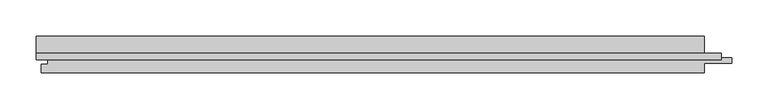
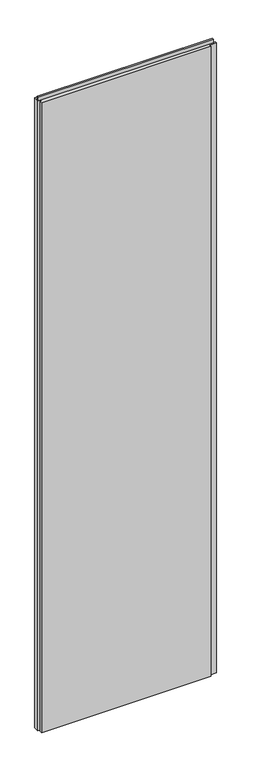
"""IFC4 building model written with IfcOpenShell, lengths in millimetres: plate geometry, Trimo_Qbiss Screen_Normal Panel-VERTICAL : HR - B."""

from ifc_helpers import new_model, si_unit, frame, origin, place, context, project, spatial, polyline, outline, extrude, source, transform, mapped, element, save


def plate_28d4e8d5(model_context):
    return source(origin(), model_context, "Body", "SweptSolid", [
        extrude(outline(polyline([(448.3, 97.0), (448.3, 102.6), (469.3, 102.6), (469.3, 97.0), (448.3, 97.0)])), frame((0.0, 0.0, 12.5), z_axis=(0.0, 0.0, 1.0), x_axis=(1.0, 0.0, 0.0)), (0.0, 0.0, 1.0), 3575.0),
        extrude(outline(polyline([(-470.3, 93.9), (-470.3, 102.6), (470.3, 102.6), (470.3, 93.9), (-470.3, 93.9)])), frame((0.0, 0.0, 3590.5), z_axis=(0.0, 0.0, 1.0), x_axis=(1.0, 0.0, 0.0)), (0.0, 0.0, 1.0), 19.0),
        extrude(outline(polyline([(447.3, 97.0), (484.8, 97.0), (484.8, 89.0), (447.3, 89.0), (447.3, 76.0), (-463.3, 76.0), (-463.3, 88.0), (-454.8, 88.0), (-454.8, 98.0), (-470.3, 98.0), (-470.3, 126.0), (447.3, 126.0), (447.3, 97.0)])), frame((0.0, 0.0, 12.5), z_axis=(0.0, 0.0, 1.0), x_axis=(1.0, 0.0, 0.0)), (0.0, 0.0, 1.0), 3575.0),
    ])


if __name__ == "__main__":
    model = new_model("IFC4")
    model_context = context("Model", 3, world=origin())
    ifc_project = project(units=[si_unit("LENGTHUNIT", "METRE", prefix="MILLI")], contexts=[model_context])
    site = spatial("IfcSite", under=ifc_project)
    building = spatial("IfcBuilding", under=site)
    placement = place(None, origin())
    plate_shape = plate_28d4e8d5(model_context)
    element("IfcPlate", 1, ObjectType="Trimo_Qbiss Screen_Normal Panel-VERTICAL : HR - B", at=placement, inside=building, context=model_context, shape_type="MappedRepresentation", body=[
        mapped(plate_shape, transform((0.0, 0.0, 0.0), x_axis=(1.0, 0.0, 0.0), y_axis=(0.0, 1.0, 0.0), z_axis=(0.0, 0.0, 1.0))),
    ])
    save(model, "model.ifc")
